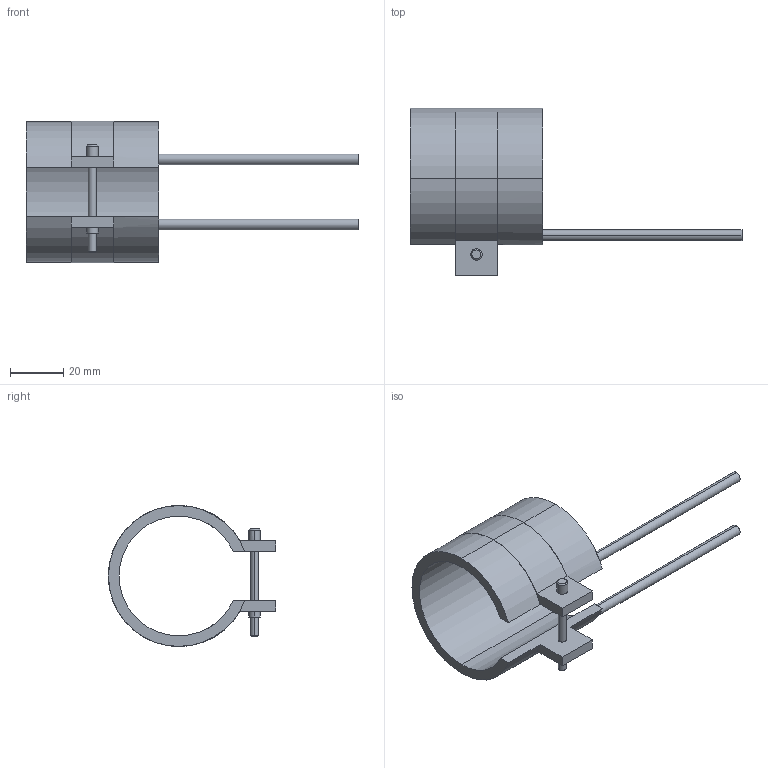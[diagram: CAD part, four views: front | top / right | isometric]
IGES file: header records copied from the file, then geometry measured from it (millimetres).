
Start section: START RECORD GO HERE.
Global section: file name: 14045050.igs; native system: DASSAULT SYSTEMES CATIA V5 R20 - www.3ds.com; preprocessor: CATIA Version 5 Release 20 ; author: Utente; organization: NB04-ASUS; date: 20210331.135657; units: millimetre
Bounding box: 125 x 63.1 x 53.2 mm (x, y, z)
Surface area: 18233.7 mm2 (no closed solid volume)
Topology: 0 solids, 0 shells, 45 faces, 232 edges, 232 vertices
Faces by surface type: revolution 28, plane 17
